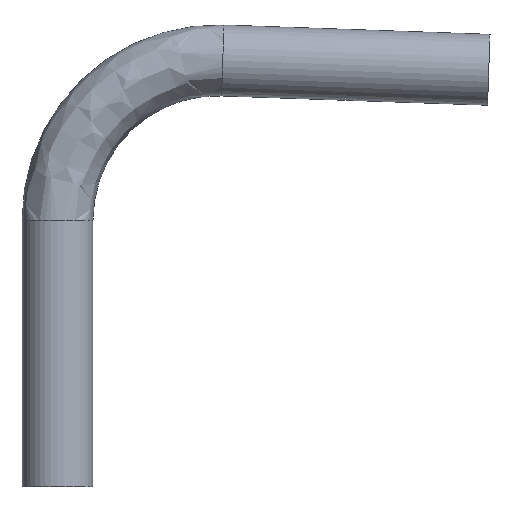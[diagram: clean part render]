
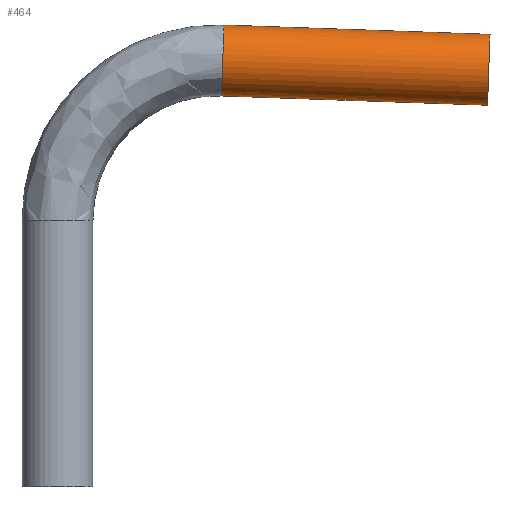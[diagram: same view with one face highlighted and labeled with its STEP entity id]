
A CAD part, top view. The second image highlights one B-rep face of the part: STEP entity #464.
In plain terms, the highlighted cylindrical face has radius 6.35 mm (diameter 12.7 mm), a partial arc.
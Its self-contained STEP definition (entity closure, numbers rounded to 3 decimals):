
#9 = CIRCLE ( 'NONE', #210, 6.35 ) ;
#14 = FACE_OUTER_BOUND ( 'NONE', #313, .T. ) ;
#23 = CYLINDRICAL_SURFACE ( 'NONE', #251, 6.35 ) ;
#36 = AXIS2_PLACEMENT_3D ( 'NONE', #412, #369, #249 ) ;
#55 = CARTESIAN_POINT ( 'NONE',  ( 29.377, 69.997, 0. ) ) ;
#56 = EDGE_CURVE ( 'NONE', #307, #60, #113, .T. ) ;
#60 = VERTEX_POINT ( 'NONE', #460 ) ;
#61 = ORIENTED_EDGE ( 'NONE', *, *, #108, .F. ) ;
#81 = CARTESIAN_POINT ( 'NONE',  ( 29.377, 69.997, 0. ) ) ;
#89 = CARTESIAN_POINT ( 'NONE',  ( 29.598, 76.343, 0. ) ) ;
#99 = LINE ( 'NONE', #205, #135 ) ;
#108 = EDGE_CURVE ( 'NONE', #362, #60, #99, .T. ) ;
#113 = CIRCLE ( 'NONE', #36, 6.35 ) ;
#114 = VECTOR ( 'NONE', #420, 1000. ) ;
#122 = VERTEX_POINT ( 'NONE', #81 ) ;
#123 = DIRECTION ( 'NONE',  ( 0.999, -0.035, 0. ) ) ;
#135 = VECTOR ( 'NONE', #123, 1000. ) ;
#143 = ORIENTED_EDGE ( 'NONE', *, *, #56, .T. ) ;
#146 = LINE ( 'NONE', #55, #114 ) ;
#148 = DIRECTION ( 'NONE',  ( 0.035, 0.999, 0. ) ) ;
#153 = DIRECTION ( 'NONE',  ( 0.035, 0.999, 0. ) ) ;
#183 = EDGE_CURVE ( 'NONE', #122, #307, #146, .T. ) ;
#195 = DIRECTION ( 'NONE',  ( 0.999, -0.035, 0. ) ) ;
#205 = CARTESIAN_POINT ( 'NONE',  ( 29.82, 82.689, 0. ) ) ;
#210 = AXIS2_PLACEMENT_3D ( 'NONE', #268, #278, #153 ) ;
#234 = ORIENTED_EDGE ( 'NONE', *, *, #183, .T. ) ;
#249 = DIRECTION ( 'NONE',  ( 0.035, 0.999, 0. ) ) ;
#251 = AXIS2_PLACEMENT_3D ( 'NONE', #89, #195, #148 ) ;
#268 = CARTESIAN_POINT ( 'NONE',  ( 29.598, 76.343, 0. ) ) ;
#278 = DIRECTION ( 'NONE',  ( -0.999, 0.035, 0. ) ) ;
#301 = ORIENTED_EDGE ( 'NONE', *, *, #444, .F. ) ;
#307 = VERTEX_POINT ( 'NONE', #436 ) ;
#313 = EDGE_LOOP ( 'NONE', ( #301, #234, #143, #61 ) ) ;
#321 = CARTESIAN_POINT ( 'NONE',  ( 29.82, 82.689, 0. ) ) ;
#362 = VERTEX_POINT ( 'NONE', #321 ) ;
#369 = DIRECTION ( 'NONE',  ( -0.999, 0.035, 0. ) ) ;
#412 = CARTESIAN_POINT ( 'NONE',  ( 77.22, 74.68, 0. ) ) ;
#420 = DIRECTION ( 'NONE',  ( 0.999, -0.035, 0. ) ) ;
#436 = CARTESIAN_POINT ( 'NONE',  ( 76.998, 68.334, 0. ) ) ;
#444 = EDGE_CURVE ( 'NONE', #122, #362, #9, .T. ) ;
#460 = CARTESIAN_POINT ( 'NONE',  ( 77.442, 81.026, 0. ) ) ;
#464 = ADVANCED_FACE ( 'NONE', ( #14 ), #23, .T. ) ;
